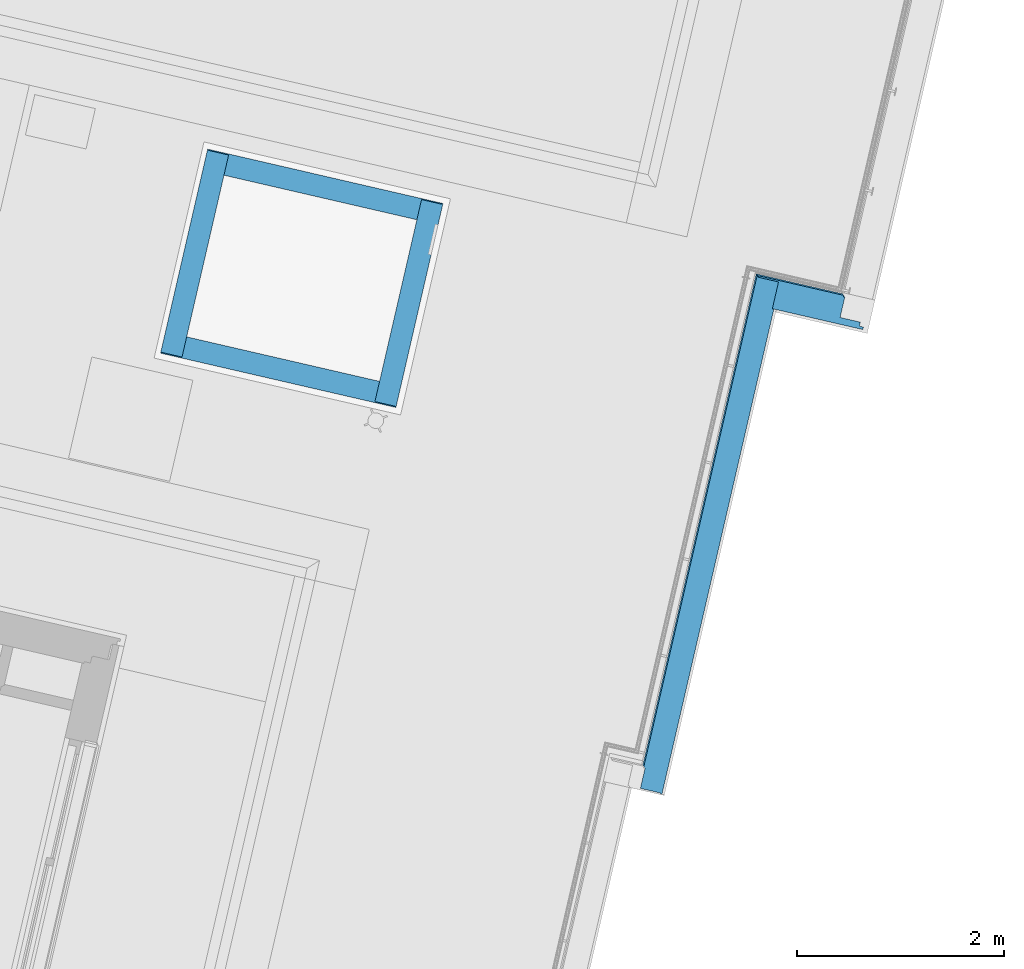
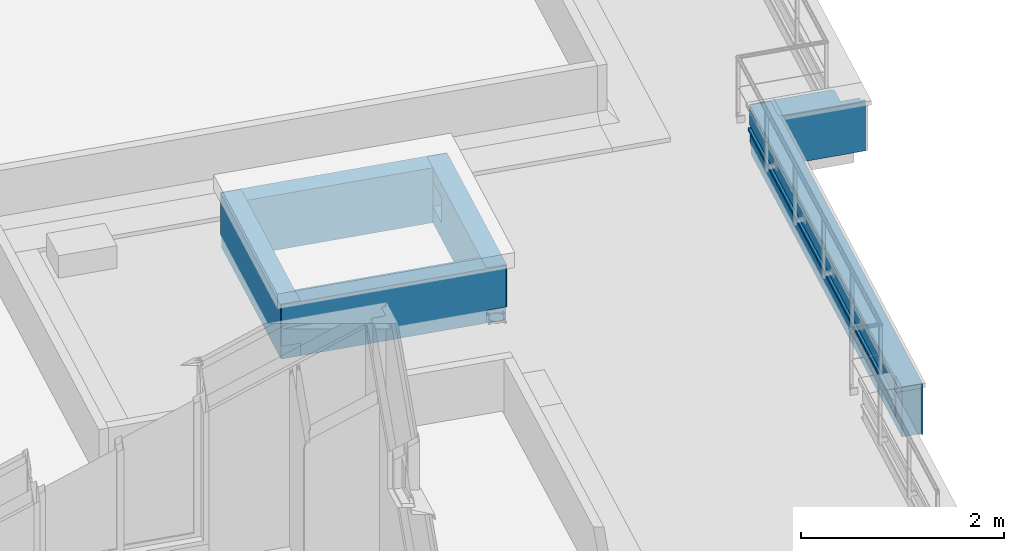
# One storey, part 12 of 47: 6 walls, 1 opening.
"""IFC2X3 building model written with IfcOpenShell, lengths in metres."""

from ifc_helpers import new_model, entity, si_unit, converted_unit, derived_unit, money_unit, direction, frame, origin_with_axes, place, context, subcontext, project, spatial, faceted_brep, material, material_list, type_object, element, save


model = new_model("IFC2X3")

# Units and contexts
model_context = context("Model", 3, precision=1e-05, world=origin_with_axes(), true_north=direction((0.0, 1.0)))
body_context = subcontext(model_context, "Body", "Model", "MODEL_VIEW")
ifc_project = project(units=[si_unit("LENGTHUNIT", "METRE"), si_unit("AREAUNIT", "SQUARE_METRE"), si_unit("VOLUMEUNIT", "CUBIC_METRE"), converted_unit("PLANEANGLEUNIT", "DEGREE", entity("IfcPlaneAngleMeasure", 0.0174532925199), si_unit("PLANEANGLEUNIT", "RADIAN"), dimensions=[0, 0, 0, 0, 0, 0, 0]), si_unit("SOLIDANGLEUNIT", "STERADIAN"), money_unit("EUR"), converted_unit("TIMEUNIT", "Year", entity("IfcTimeMeasure", 31556926.0), si_unit("TIMEUNIT", "SECOND"), dimensions=[0, 0, 1, 0, 0, 0, 0]), si_unit("MASSUNIT", "GRAM", prefix="KILO"), si_unit("THERMODYNAMICTEMPERATUREUNIT", "DEGREE_CELSIUS"), si_unit("LUMINOUSINTENSITYUNIT", "LUMEN"), si_unit("ENERGYUNIT", "JOULE", prefix="MEGA"), derived_unit("THERMALCONDUCTANCEUNIT", [(si_unit("POWERUNIT", "WATT"), 1), (si_unit("LENGTHUNIT", "METRE"), -1), (si_unit("THERMODYNAMICTEMPERATUREUNIT", "KELVIN"), -1)]), derived_unit("SPECIFICHEATCAPACITYUNIT", [(si_unit("ENERGYUNIT", "JOULE"), 1), (si_unit("MASSUNIT", "GRAM", prefix="KILO"), -1), (si_unit("THERMODYNAMICTEMPERATUREUNIT", "KELVIN"), -1)]), derived_unit("MASSDENSITYUNIT", [(si_unit("MASSUNIT", "GRAM", prefix="KILO"), 1), (si_unit("VOLUMEUNIT", "CUBIC_METRE"), -1)])], contexts=[model_context])

# Site, building, storey
site_placement = place(None, origin_with_axes())
site = spatial("IfcSite", under=ifc_project, at=site_placement, Name="Site", CompositionType="ELEMENT")
building_placement = place(site_placement, origin_with_axes())
building = spatial("IfcBuilding", under=site, at=building_placement, Name="Bâtiment", CompositionType="ELEMENT")
storey_placement = place(building_placement, frame((0.0, 0.0, 10.88), z_axis=(0.0, 0.0, 1.0), x_axis=(1.0, 0.0, 0.0)))
storey = spatial("IfcBuildingStorey", under=building, at=storey_placement, Name="R+4", CompositionType="ELEMENT", Elevation=10.88)

# Wall, opening
ifc_material_1 = material(Name="Finition int - Enduit plâtre")
ifc_material_2 = material(Name="Béton")
ifc_material_list_1 = material_list([ifc_material_1, ifc_material_2])
wall_type_1 = type_object("IfcWallType", Name="2 - Murs Béton 20 + Enduit 1 Face  210", PredefinedType="USERDEFINED")
wall_1_placement = place(storey_placement, frame((-7.41382429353, -4.85489858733, 0.0), z_axis=(0.0, 0.0, 1.0), x_axis=(-0.224876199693, -0.974387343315, 0.0)))
wall_1 = element("IfcWall", 1, at=wall_1_placement, inside=storey, type_object=wall_type_1, material=ifc_material_list_1, Name="M_Ext-009", ObjectType="SOLIDWALL", context=body_context, shape_type="Brep", body=[
    faceted_brep([(1.81000000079, 0.21, 0.179999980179), (-0.21, 0.21, 0.179999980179), (-0.21, 0.21, 0.679999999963), (1.81000000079, 0.21, 0.679999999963), (1.57765622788e-09, 0.21, 0.216118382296), (0.300000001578, 0.21, 0.216118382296), (0.300000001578, 0.21, 0.516118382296), (1.57765622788e-09, 0.21, 0.516118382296), (-0.21, 0.2, 0.179999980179), (1.81000000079, 0.2, 0.179999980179), (1.80000000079, 0.2, 0.179999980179), (-0.2, 0.2, 0.179999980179), (-0.21, 0.2, 0.679999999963), (1.81000000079, 0.2, 0.679999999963), (0.300000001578, 0.2, 0.216118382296), (1.57765622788e-09, 0.2, 0.216118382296), (0.300000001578, 0.2, 0.516118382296), (1.57765622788e-09, 0.2, 0.516118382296)], [[[0, 1, 2, 3], [4, 5, 6, 7]], [[8, 1, 0, 9, 10, 11]], [[1, 8, 12, 2]], [[12, 13, 3, 2]], [[9, 0, 3, 13]], [[14, 5, 4, 15]], [[16, 6, 5, 14]], [[17, 7, 6, 16]], [[15, 4, 7, 17]], [[10, 9, 13, 12, 8, 11], [16, 14, 15, 17]]]),
    faceted_brep([(1.80000000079, 0.2, 0.0199999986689), (-0.2, 0.2, 0.0199999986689), (-0.2, 0.2, 0.679999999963), (1.80000000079, 0.2, 0.679999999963), (1.57765622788e-09, 0.2, 0.216118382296), (0.300000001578, 0.2, 0.216118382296), (0.300000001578, 0.2, 0.516118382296), (1.57765622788e-09, 0.2, 0.516118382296), (-0.2, 0.0, 0.0199999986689), (1.8000000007, 0.0, 0.0199999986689), (1.60000008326, -1.02172707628e-07, 0.0199999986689), (-6.41440243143e-08, -1.5107596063e-08, 0.0199999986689), (-0.2, 0.0, 0.679999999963), (1.8000000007, 0.0, 0.679999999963), (0.300000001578, 0.0, 0.216118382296), (1.57765622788e-09, 0.0, 0.216118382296), (0.300000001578, 0.0, 0.516118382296), (1.57765622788e-09, 0.0, 0.516118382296)], [[[0, 1, 2, 3], [4, 5, 6, 7]], [[8, 1, 0, 9, 10, 11]], [[1, 8, 12, 2]], [[13, 3, 2, 12]], [[9, 0, 3, 13]], [[14, 5, 4, 15]], [[16, 6, 5, 14]], [[17, 7, 6, 16]], [[15, 4, 7, 17]], [[10, 9, 13, 12, 8, 11], [16, 14, 15, 17]]]),
])
opening_placement = place(wall_1_placement, frame((-6.39774436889, 6.13218541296, -10.88), z_axis=(0.0, 0.0, 1.0), x_axis=(-0.224876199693, 0.974387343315, 0.0)))
element("IfcOpeningElement", 2, at=opening_placement, cuts=wall_1, Name="PERCEMENT-002", context=body_context, shape_type="Brep", body=[
    faceted_brep([(-8.33804947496, -4.64159917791, 11.0961183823), (-8.33804947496, -4.64159917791, 11.3961183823), (-6.64477968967, -5.03238429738, 11.3961183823), (-6.64477968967, -5.03238429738, 11.0961183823), (-8.33804947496, -4.9494849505, 11.0961183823), (-8.33804947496, -4.9494849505, 11.3961183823), (-6.64477968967, -5.34027006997, 11.3961183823), (-6.64477968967, -5.34027006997, 11.0961183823)], [[[0, 1, 2, 3]], [[0, 4, 5, 1]], [[1, 5, 6, 2]], [[3, 2, 6, 7]], [[4, 0, 3, 7]], [[5, 4, 7, 6]]]),
])

# Walls
ifc_material_list_2 = material_list([ifc_material_2, ifc_material_1])
wall_2_placement = place(storey_placement, frame((-7.41382429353, -4.85489858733, 0.0), z_axis=(0.0, 0.0, 1.0), x_axis=(-0.974387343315, 0.224876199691, 0.0)))
element("IfcWall", 3, at=wall_2_placement, inside=storey, type_object=wall_type_1, material=ifc_material_list_2, Name="M_Ext-009", ObjectType="SOLIDWALL", context=body_context, shape_type="Brep", body=[
    faceted_brep([(1.51075951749e-08, -6.41440234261e-08, 0.0199999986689), (0.0, -0.2, 0.0199999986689), (0.0, -0.2, 0.679999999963), (0.0, 0.0, 0.679999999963), (1.90999999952, -0.2, 0.0199999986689), (1.90999997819, -7.42278780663e-08, 0.0199999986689), (1.90999999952, -0.2, 0.679999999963), (1.90999999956, 0.0, 0.679999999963)], [[[0, 1, 2, 3]], [[4, 1, 0, 5]], [[1, 4, 6, 2]], [[7, 3, 2, 6]], [[5, 0, 3, 7]], [[4, 5, 7, 6]]]),
    faceted_brep([(-0.2, -0.2, 0.179999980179), (-0.2, -0.21, 0.179999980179), (-0.2, -0.21, 0.679999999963), (-0.2, -0.2, 0.679999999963), (2.10999999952, -0.21, 0.179999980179), (2.10999999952, -0.2, 0.179999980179), (2.10999999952, -0.21, 0.679999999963), (2.10999999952, -0.2, 0.679999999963)], [[[0, 1, 2, 3]], [[4, 1, 0, 5]], [[1, 4, 6, 2]], [[7, 3, 2, 6]], [[5, 0, 3, 7]], [[4, 5, 7, 6]]]),
])
wall_3_placement = place(storey_placement, frame((-9.27490411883, -4.42538504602, 0.0), z_axis=(0.0, 0.0, 1.0), x_axis=(-0.224876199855, -0.974387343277, 0.0)))
element("IfcWall", 4, at=wall_3_placement, inside=storey, type_object=wall_type_1, material=ifc_material_list_2, Name="M_Ext-009", ObjectType="SOLIDWALL", context=body_context, shape_type="Brep", body=[
    faceted_brep([(1.60000007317, -6.54271214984e-08, 0.0199999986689), (-7.42278780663e-08, 2.13718411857e-08, 0.0199999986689), (-0.2, 0.0, 0.0199999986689), (-0.2, 0.0, 0.679999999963), (1.79999999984, 0.0, 0.679999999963), (1.79999999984, 0.0, 0.0199999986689), (-0.199999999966, -0.2, 0.0199999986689), (1.79999999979, -0.2, 0.0199999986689), (-0.199999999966, -0.2, 0.679999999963), (1.79999999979, -0.2, 0.679999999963)], [[[0, 1, 2, 3, 4, 5]], [[6, 2, 1, 0, 5, 7]], [[2, 6, 8, 3]], [[9, 4, 3, 8]], [[7, 5, 4, 9]], [[6, 7, 9, 8]]]),
    faceted_brep([(1.79999999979, -0.2, 0.179999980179), (-0.199999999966, -0.2, 0.179999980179), (-0.209999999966, -0.2, 0.179999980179), (-0.209999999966, -0.2, 0.679999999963), (1.80999999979, -0.2, 0.679999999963), (1.80999999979, -0.2, 0.179999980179), (-0.209999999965, -0.21, 0.179999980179), (1.80999999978, -0.21, 0.179999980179), (-0.209999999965, -0.21, 0.679999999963), (1.80999999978, -0.21, 0.679999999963)], [[[0, 1, 2, 3, 4, 5]], [[6, 2, 1, 0, 5, 7]], [[2, 6, 8, 3]], [[9, 4, 3, 8]], [[7, 5, 4, 9]], [[6, 7, 9, 8]]]),
])
wall_4_placement = place(storey_placement, frame((-7.77362621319, -6.41391833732, 0.0), z_axis=(0.0, 0.0, 1.0), x_axis=(-0.974387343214, 0.224876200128, 0.0)))
element("IfcWall", 5, at=wall_4_placement, inside=storey, type_object=wall_type_1, material=ifc_material_list_1, Name="M_Ext-009", ObjectType="SOLIDWALL", context=body_context, shape_type="Brep", body=[
    faceted_brep([(-0.200000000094, 0.21, 0.179999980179), (-0.200000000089, 0.2, 0.179999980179), (-0.200000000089, 0.2, 0.679999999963), (-0.200000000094, 0.21, 0.679999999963), (2.10999999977, 0.2, 0.179999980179), (2.10999999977, 0.21, 0.179999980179), (2.10999999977, 0.2, 0.679999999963), (2.10999999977, 0.21, 0.679999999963)], [[[0, 1, 2, 3]], [[4, 1, 0, 5]], [[1, 4, 6, 2]], [[7, 3, 2, 6]], [[5, 0, 3, 7]], [[4, 5, 7, 6]]]),
    faceted_brep([(0.0, 0.2, 0.0199999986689), (1.02172707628e-07, 8.25564860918e-08, 0.0199999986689), (0.0, 0.0, 0.679999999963), (0.0, 0.2, 0.679999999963), (1.91000006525, 7.33296321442e-08, 0.0199999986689), (1.90999999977, 0.2, 0.0199999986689), (1.90999999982, 0.0, 0.679999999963), (1.90999999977, 0.2, 0.679999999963)], [[[0, 1, 2, 3]], [[4, 1, 0, 5]], [[1, 4, 6, 2]], [[7, 3, 2, 6]], [[5, 0, 3, 7]], [[4, 5, 7, 6]]]),
])
ifc_material_3 = material(Name="Finition ext - Crépis")
ifc_material_4 = material(Name="Etanchéité - Bitume")
ifc_material_5 = material(Name="Métal - Aluminium")
ifc_material_list_3 = material_list([ifc_material_3, ifc_material_2, ifc_material_4, ifc_material_3, ifc_material_5])
wall_type_2 = type_object("IfcWallType", Name="Acrotère pour plancher 23 isolée 242 x 600", PredefinedType="USERDEFINED")
wall_5_placement = place(storey_placement, frame((-3.9810163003, -5.69846128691, 0.02), z_axis=(0.0, 0.0, 1.0), x_axis=(-0.224876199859, -0.974387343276, 0.0)))
element("IfcWall", 6, at=wall_5_placement, inside=storey, type_object=wall_type_2, material=ifc_material_list_3, Name="Muret béton 20cm", ObjectType="PARAPET", context=body_context, shape_type="Brep", body=[
    faceted_brep([(0.0149999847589, 0.015, 0.318976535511), (0.0149999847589, 0.015, 0.357041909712), (0.0149999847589, 0.015, 0.600000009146), (4.82499999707, 0.015, 0.600000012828), (4.82499999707, 0.015, 0.0), (0.0149999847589, 0.015, 0.0), (0.0149999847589, 0.015, 0.100000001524), (0.0149999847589, 0.015, 0.282882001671), (0.0149999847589, 0.015, 0.309999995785), (0.0149999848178, -3.2069547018e-10, 0.318976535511), (0.0149999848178, -3.2069547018e-10, 0.357041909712), (0.0149999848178, -3.2069547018e-10, 0.600000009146), (4.82499999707, -3.20697246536e-10, 0.600000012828), (4.82499999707, -3.20697246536e-10, 0.0), (0.0149999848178, -3.20697246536e-10, 0.0), (0.0149999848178, -3.2069547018e-10, 0.100000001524), (0.0149999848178, -3.2069547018e-10, 0.282882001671), (0.0149999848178, -3.2069547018e-10, 0.309999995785)], [[[0, 1, 2, 3, 4, 5, 6, 7, 8]], [[9, 10, 1, 0]], [[10, 11, 2, 1]], [[3, 2, 11, 12]], [[12, 13, 4, 3]], [[13, 14, 5, 4]], [[14, 15, 6, 5]], [[15, 16, 7, 6]], [[16, 17, 8, 7]], [[17, 9, 0, 8]], [[12, 11, 10, 9, 17, 16, 15, 14, 13]]]),
    faceted_brep([(-0.250000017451, 0.0, 0.318976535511), (-0.250000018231, 0.0, 0.357041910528), (-0.250000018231, 0.0, 0.600000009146), (4.80999999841, 0.0, 0.600000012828), (4.80999999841, 0.0, 0.357041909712), (4.80999999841, 0.0, 0.318976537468), (4.80999999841, 0.0, 0.309999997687), (4.80999999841, 0.0, 0.282881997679), (4.80999999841, 0.0, 0.100000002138), (4.80999999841, 0.0, 0.0), (-0.250000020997, 0.0, 0.0), (-0.250000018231, 0.0, 0.100000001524), (-0.250000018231, 0.0, 0.282882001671), (-0.250000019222, 0.0, 0.309999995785), (-0.250000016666, -0.200000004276, 0.318976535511), (-0.250000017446, -0.200000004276, 0.357041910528), (-0.250000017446, -0.200000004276, 0.600000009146), (4.80999999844, -0.200000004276, 0.600000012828), (4.80999999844, -0.200000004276, 0.357041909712), (4.80999999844, -0.200000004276, 0.318976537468), (4.80999999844, -0.200000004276, 0.309999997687), (4.80999999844, -0.200000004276, 0.282881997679), (4.80999999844, -0.200000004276, 0.100000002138), (4.80999999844, -0.200000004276, 0.0), (-0.250000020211, -0.200000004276, 0.0), (-0.250000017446, -0.200000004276, 0.100000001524), (-0.250000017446, -0.200000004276, 0.282882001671), (-0.250000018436, -0.200000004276, 0.309999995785)], [[[0, 1, 2, 3, 4, 5, 6, 7, 8, 9, 10, 11, 12, 13]], [[14, 15, 1, 0]], [[15, 16, 2, 1]], [[3, 2, 16, 17]], [[18, 4, 3, 17]], [[5, 4, 18, 19]], [[6, 5, 19, 20]], [[7, 6, 20, 21]], [[8, 7, 21, 22]], [[9, 8, 22, 23]], [[10, 9, 23, 24]], [[24, 25, 11, 10]], [[25, 26, 12, 11]], [[26, 27, 13, 12]], [[27, 14, 0, 13]], [[17, 16, 15, 14, 19, 18]], [[19, 14, 27, 20]], [[20, 27, 26, 25, 22, 21]], [[24, 23, 22, 25]]]),
    faceted_brep([(4.60999999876, -0.2, 0.109999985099), (-0.250000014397, -0.2, 0.109999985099), (-0.260000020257, -0.200000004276, 0.109999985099), (-0.260000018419, -0.200000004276, 0.282882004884), (-0.260000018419, -0.200000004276, 0.309999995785), (4.60999999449, -0.200000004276, 0.309999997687), (4.60999999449, -0.200000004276, 0.282881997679), (-0.260000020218, -0.209999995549, 0.109999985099), (4.60999999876, -0.209999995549, 0.109999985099), (-0.260000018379, -0.209999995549, 0.282882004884), (-0.260000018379, -0.209999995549, 0.309999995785), (4.60999999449, -0.209999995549, 0.309999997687), (4.60999999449, -0.209999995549, 0.282881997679)], [[[0, 1, 2, 3, 4, 5, 6]], [[7, 2, 1, 0, 8]], [[2, 7, 9, 3]], [[9, 10, 4, 3]], [[5, 4, 10, 11]], [[12, 6, 5, 11]], [[8, 0, 6, 12]], [[7, 8, 12, 11, 10, 9]]]),
    faceted_brep([(4.60999999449, -0.215000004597, 0.600000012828), (4.60999999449, -0.200000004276, 0.600000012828), (-0.26500002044, -0.200000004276, 0.600000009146), (-0.265000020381, -0.215000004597, 0.600000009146), (4.60999999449, -0.200000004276, 0.357041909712), (4.60999999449, -0.215000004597, 0.357041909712), (4.60999999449, -0.201045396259, 0.357041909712), (-0.26500002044, -0.200000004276, 0.357041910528), (-0.265000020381, -0.215000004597, 0.357041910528), (-0.265000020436, -0.201045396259, 0.357041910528)], [[[0, 1, 2, 3]], [[4, 1, 0, 5, 6]], [[1, 4, 7, 2]], [[8, 3, 2, 7, 9]], [[5, 0, 3, 8]], [[6, 5, 8, 9]], [[4, 6, 9, 7]]]),
    faceted_brep([(4.60999999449, -0.201045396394, 0.357041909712), (4.60999999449, -0.2, 0.357041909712), (-0.251045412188, -0.2, 0.357041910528), (-0.251045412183, -0.201045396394, 0.357041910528), (4.60999999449, -0.2, 0.318976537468), (4.60999999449, -0.201045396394, 0.320023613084), (4.60999999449, -0.204574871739, 0.318976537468), (-0.254574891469, -0.2, 0.318976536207), (-0.251045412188, -0.2, 0.320023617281), (-0.251045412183, -0.201045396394, 0.320023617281), (-0.277484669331, -0.227484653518, 0.312179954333), (4.58734470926, -0.227484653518, 0.312179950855), (4.58374943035, -0.227484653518, 0.311101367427), (4.58374943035, -0.226250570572, 0.311101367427), (-0.277484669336, -0.226250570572, 0.311101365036), (-0.27748466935, -0.222655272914, 0.312179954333), (-0.277484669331, -0.227484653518, 0.282882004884), (4.58374943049, -0.227484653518, 0.282881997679), (4.58374943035, -0.227484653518, 0.309999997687), (4.58374943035, -0.226250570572, 0.309999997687), (4.58374943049, -0.226250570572, 0.282881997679), (-0.277484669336, -0.226250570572, 0.282882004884)], [[[0, 1, 2, 3]], [[4, 1, 0, 5, 6]], [[1, 4, 7, 8, 2]], [[9, 3, 2, 8]], [[5, 0, 3, 9]], [[6, 5, 9, 10, 11]], [[4, 6, 11, 12, 13]], [[4, 13, 14, 15, 7]], [[9, 8, 7, 15, 10]], [[12, 11, 10, 16, 17, 18]], [[19, 13, 12, 18]], [[13, 19, 20, 21, 14]], [[10, 15, 14, 21, 16]], [[20, 17, 16, 21]], [[19, 18, 17, 20]]]),
])
ifc_material_6 = material(Name="Finition ext - Bardage bois")
ifc_material_7 = material(Name="Bois - Lattage")
ifc_material_list_4 = material_list([ifc_material_6, ifc_material_7, ifc_material_2, ifc_material_4, ifc_material_3, ifc_material_5])
wall_type_3 = type_object("IfcWallType", Name="Acrotère pour plancher 23 isolée BARDAGE BOIS (1) 292 x 600", PredefinedType="USERDEFINED")
wall_6_placement = place(storey_placement, frame((-3.09840776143, -5.90215608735, 0.02), z_axis=(0.0, 0.0, 1.0), x_axis=(-0.974387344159, 0.224876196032, 0.0)))
element("IfcWall", 7, at=wall_6_placement, inside=storey, type_object=wall_type_3, material=ifc_material_list_4, Name="Muret béton 20cm", ObjectType="PARAPET", context=body_context, shape_type="Brep", body=[
    faceted_brep([(0.905808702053, 0.015, 0.600000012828), (0.0100000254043, 0.015, 0.600000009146), (0.0100000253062, -0.01, 0.600000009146), (0.905808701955, -0.01, 0.600000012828), (0.0100000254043, 0.015, 0.318976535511), (0.0100000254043, 0.015, 0.357041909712), (0.905808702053, 0.015, 0.357041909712), (0.905808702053, 0.015, 0.318976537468), (0.905808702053, 0.015, 0.309999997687), (0.905808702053, 0.015, 0.282881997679), (0.905808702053, 0.015, 0.100000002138), (0.905808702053, 0.015, 0.0), (0.0100000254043, 0.015, 0.0), (0.0100000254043, 0.015, 0.100000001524), (0.0100000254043, 0.015, 0.282882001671), (0.0100000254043, 0.015, 0.309999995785), (0.0100000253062, -0.01, 0.357041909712), (0.0100000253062, -0.01, 0.318976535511), (0.0100000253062, -0.01, 0.309999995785), (0.0100000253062, -0.01, 0.282882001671), (0.0100000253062, -0.01, 0.100000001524), (0.0100000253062, -0.01, 0.0), (0.905808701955, -0.01, 0.0), (0.905808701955, -0.01, 0.100000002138), (0.905808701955, -0.01, 0.282881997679), (0.905808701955, -0.01, 0.309999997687), (0.905808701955, -0.01, 0.318976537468), (0.905808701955, -0.01, 0.357041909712)], [[[0, 1, 2, 3]], [[4, 5, 1, 0, 6, 7, 8, 9, 10, 11, 12, 13, 14, 15]], [[5, 16, 2, 1]], [[3, 2, 16, 17, 18, 19, 20, 21, 22, 23, 24, 25, 26, 27]], [[6, 0, 3, 27]], [[17, 16, 5, 4]], [[7, 6, 27, 26]], [[8, 7, 26, 25]], [[9, 8, 25, 24]], [[10, 9, 24, 23]], [[11, 10, 23, 22]], [[22, 21, 12, 11]], [[21, 20, 13, 12]], [[20, 19, 14, 13]], [[19, 18, 15, 14]], [[18, 17, 4, 15]]]),
    faceted_brep([(0.905808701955, -0.0100000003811, 0.600000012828), (0.0500000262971, -0.0100000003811, 0.600000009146), (0.0500000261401, -0.0500000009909, 0.600000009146), (0.905808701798, -0.0500000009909, 0.600000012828), (0.0500000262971, -0.0100000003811, 0.318976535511), (0.0500000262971, -0.0100000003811, 0.357041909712), (0.905808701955, -0.0100000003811, 0.357041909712), (0.905808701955, -0.0100000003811, 0.318976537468), (0.905808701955, -0.0100000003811, 0.309999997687), (0.905808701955, -0.0100000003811, 0.282881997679), (0.905808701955, -0.0100000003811, 0.100000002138), (0.905808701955, -0.0100000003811, 0.0), (0.0500000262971, -0.0100000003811, 0.0), (0.0500000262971, -0.0100000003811, 0.100000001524), (0.0500000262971, -0.0100000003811, 0.282882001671), (0.0500000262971, -0.0100000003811, 0.309999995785), (0.0500000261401, -0.0500000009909, 0.357041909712), (0.0500000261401, -0.0500000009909, 0.318976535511), (0.0500000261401, -0.0500000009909, 0.309999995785), (0.0500000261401, -0.0500000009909, 0.282882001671), (0.0500000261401, -0.0500000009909, 0.100000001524), (0.0500000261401, -0.0500000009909, 0.0), (0.905808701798, -0.0500000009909, 0.0), (0.905808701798, -0.0500000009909, 0.100000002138), (0.905808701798, -0.0500000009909, 0.282881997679), (0.905808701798, -0.0500000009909, 0.309999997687), (0.905808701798, -0.0500000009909, 0.318976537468), (0.905808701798, -0.0500000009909, 0.357041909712)], [[[0, 1, 2, 3]], [[4, 5, 1, 0, 6, 7, 8, 9, 10, 11, 12, 13, 14, 15]], [[5, 16, 2, 1]], [[3, 2, 16, 17, 18, 19, 20, 21, 22, 23, 24, 25, 26, 27]], [[6, 0, 3, 27]], [[17, 16, 5, 4]], [[7, 6, 27, 26]], [[8, 7, 26, 25]], [[9, 8, 25, 24]], [[10, 9, 24, 23]], [[11, 10, 23, 22]], [[22, 21, 12, 11]], [[21, 20, 13, 12]], [[20, 19, 14, 13]], [[19, 18, 15, 14]], [[18, 17, 4, 15]]]),
    faceted_brep([(0.905808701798, -0.05, 0.600000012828), (0.250000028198, -0.05, 0.600000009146), (0.250000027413, -0.250000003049, 0.600000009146), (0.905808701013, -0.250000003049, 0.600000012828), (0.250000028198, -0.05, 0.318976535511), (0.250000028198, -0.05, 0.357041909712), (0.905808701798, -0.05, 0.357041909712), (0.905808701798, -0.05, 0.318976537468), (0.905808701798, -0.05, 0.309999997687), (0.905808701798, -0.05, 0.282881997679), (0.905808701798, -0.05, 0.100000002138), (0.905808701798, -0.05, 0.0), (0.250000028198, -0.05, 0.0), (0.250000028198, -0.05, 0.100000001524), (0.250000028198, -0.05, 0.282882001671), (0.250000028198, -0.05, 0.309999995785), (0.250000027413, -0.250000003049, 0.357041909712), (0.250000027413, -0.250000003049, 0.318976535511), (0.905808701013, -0.250000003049, 0.318976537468), (0.905808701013, -0.250000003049, 0.357041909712), (0.905808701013, -0.250000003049, 0.309999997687), (0.905808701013, -0.250000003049, 0.282881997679), (0.905808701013, -0.250000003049, 0.100000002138), (0.905808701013, -0.250000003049, 0.0), (0.250000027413, -0.250000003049, 0.0), (0.250000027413, -0.250000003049, 0.100000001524), (0.250000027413, -0.250000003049, 0.282882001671), (0.250000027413, -0.250000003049, 0.309999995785)], [[[0, 1, 2, 3]], [[4, 5, 1, 0, 6, 7, 8, 9, 10, 11, 12, 13, 14, 15]], [[5, 16, 2, 1]], [[3, 2, 16, 17, 18, 19]], [[6, 0, 3, 19]], [[17, 16, 5, 4]], [[7, 6, 19, 18]], [[8, 7, 18, 20]], [[9, 8, 20, 21]], [[10, 9, 21, 22]], [[11, 10, 22, 23]], [[23, 24, 12, 11]], [[24, 25, 13, 12]], [[25, 26, 14, 13]], [[26, 27, 15, 14]], [[27, 17, 4, 15]], [[18, 17, 27, 20]], [[20, 27, 26, 25, 22, 21]], [[22, 25, 24, 23]]]),
    faceted_brep([(0.260000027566, -0.25, 0.109999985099), (0.260000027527, -0.260000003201, 0.109999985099), (0.260000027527, -0.260000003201, 0.282882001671), (0.260000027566, -0.250000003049, 0.282882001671), (1.10580870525, -0.260000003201, 0.109999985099), (1.10580870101, -0.25, 0.109999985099), (1.10580870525, -0.260000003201, 0.282881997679), (1.10580870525, -0.260000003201, 0.309999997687), (0.260000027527, -0.260000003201, 0.309999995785), (0.260000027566, -0.250000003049, 0.309999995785), (1.10580870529, -0.250000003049, 0.309999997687), (1.10580870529, -0.250000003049, 0.282881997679)], [[[0, 1, 2, 3]], [[4, 1, 0, 5]], [[1, 4, 6, 7, 8, 2]], [[3, 2, 8, 9]], [[5, 0, 3, 9, 10, 11]], [[4, 5, 11, 6]], [[11, 10, 7, 6]], [[10, 9, 8, 7]]]),
    faceted_brep([(0.265000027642, -0.250000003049, 0.600000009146), (0.265000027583, -0.265000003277, 0.600000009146), (1.10580870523, -0.265000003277, 0.600000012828), (1.10580870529, -0.250000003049, 0.600000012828), (0.265000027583, -0.265000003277, 0.357041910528), (0.265000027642, -0.250000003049, 0.357041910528), (0.265000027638, -0.251045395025, 0.357041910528), (1.10580870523, -0.265000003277, 0.357041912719), (1.10580870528, -0.251045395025, 0.357041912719), (1.10580870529, -0.250000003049, 0.357041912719)], [[[0, 1, 2, 3]], [[4, 1, 0, 5, 6]], [[1, 4, 7, 2]], [[3, 2, 7, 8, 9]], [[5, 0, 3, 9]], [[6, 5, 9, 8]], [[4, 6, 8, 7]]]),
    faceted_brep([(0.251045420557, -0.25, 0.357041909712), (0.251045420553, -0.251045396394, 0.357041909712), (1.10580870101, -0.251045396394, 0.357041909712), (1.10580870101, -0.25, 0.357041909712), (0.251045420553, -0.251045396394, 0.320023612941), (0.251045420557, -0.25, 0.320023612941), (1.10580870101, -0.251045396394, 0.320023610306), (1.10580870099, -0.254574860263, 0.318976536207), (1.10580870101, -0.25, 0.318976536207), (0.254574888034, -0.25, 0.318976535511), (0.254574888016, -0.254574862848, 0.318976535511), (0.277484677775, -0.277484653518, 0.312179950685), (1.1284639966, -0.277484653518, 0.312179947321), (1.13205927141, -0.277484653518, 0.311101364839), (1.13205927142, -0.276250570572, 0.311101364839), (0.277484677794, -0.272655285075, 0.312179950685), (0.27748467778, -0.276250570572, 0.311101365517), (0.277484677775, -0.277484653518, 0.309999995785), (0.277484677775, -0.277484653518, 0.282882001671), (1.13205927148, -0.277484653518, 0.282882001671), (1.13205927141, -0.277484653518, 0.309999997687), (1.13205927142, -0.276250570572, 0.309999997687), (0.27748467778, -0.276250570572, 0.309999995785), (1.13205927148, -0.276250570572, 0.282882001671), (0.27748467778, -0.276250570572, 0.282882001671)], [[[0, 1, 2, 3]], [[4, 1, 0, 5]], [[1, 4, 6, 2]], [[6, 7, 8, 3, 2]], [[5, 0, 3, 8, 9]], [[10, 4, 5, 9]], [[4, 10, 11, 12, 7, 6]], [[8, 7, 12, 13, 14]], [[15, 9, 8, 14, 16]], [[10, 9, 15, 11]], [[11, 17, 18, 19, 20, 13, 12]], [[13, 20, 21, 14]], [[22, 16, 14, 21, 23, 24]], [[17, 11, 15, 16, 22]], [[17, 22, 24, 18]], [[18, 24, 23, 19]], [[21, 20, 19, 23]]]),
])

save(model, "model.ifc")
